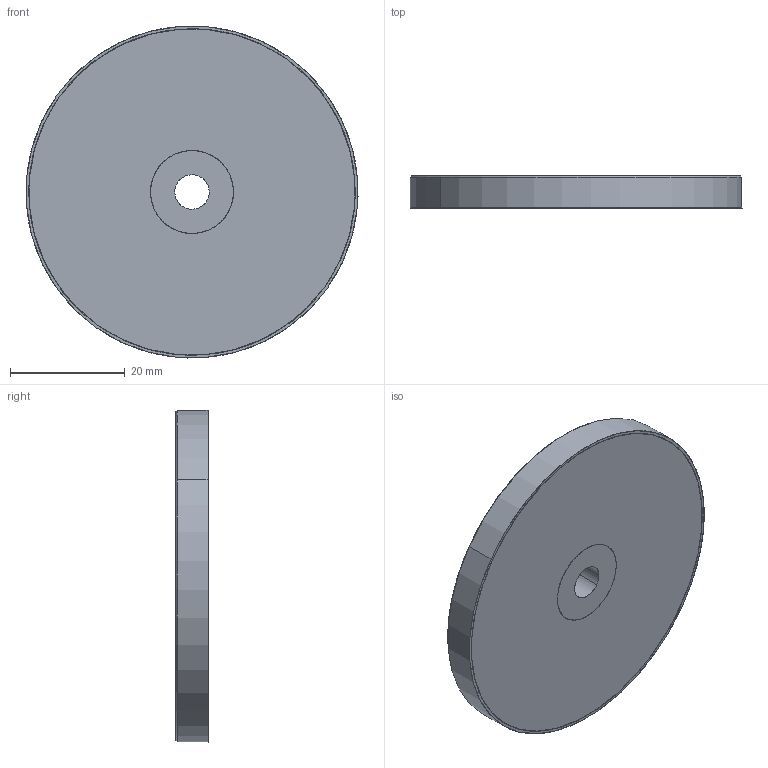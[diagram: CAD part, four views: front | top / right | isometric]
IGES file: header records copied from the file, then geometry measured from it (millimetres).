
Start section: SolidWorks IGES file using analytic representation for surfaces
Global section: file name: C:\Zettlex Data\Mechanical Drawings\1615\58mm Plain Rotor 6.00mm Rev 1-0.IGS; native system: SolidWorks 2015; preprocessor: SolidWorks 2015; author: Nigel; date: 150907.174114; units: millimetre
Bounding box: 57.98 x 5.6 x 57.98 mm (x, y, z)
Surface area: 6377.7 mm2 (no closed solid volume)
Topology: 0 solids, 0 shells, 652 faces, 7695 edges, 7695 vertices
Faces by surface type: bspline 638, revolution 14
